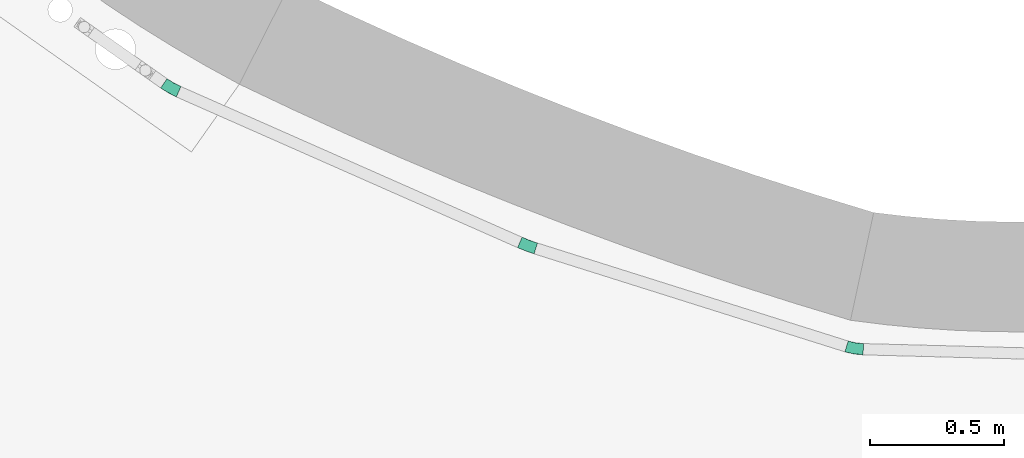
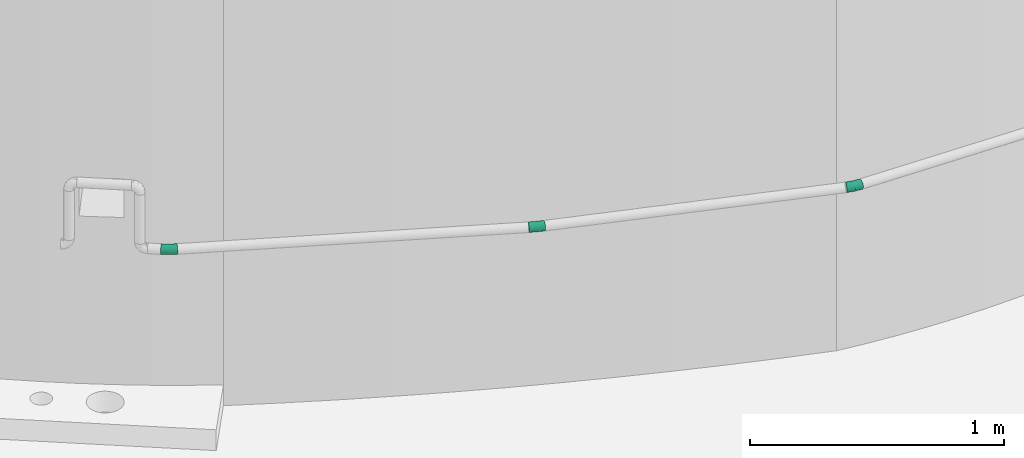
# One storey, part 32 of 34: 3 flow fittings.
"""IFC2X3 building model written with IfcOpenShell, lengths in metres."""

from ifc_helpers import new_model, entity, si_unit, converted_unit, derived_unit, direction, frame, origin, place, context, subcontext, project, spatial, faceted_brep, source, transform, mapped, type_object, type_shapes, element, save


model = new_model("IFC2X3")

# Units and contexts
model_context = context("Model", 3, precision=1e-05, world=origin(), true_north=direction((0.894925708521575, 0.446215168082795)))
context_of_model = context(None, 3, precision=1e-05, world=origin(), true_north=direction((0.894925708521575, 0.446215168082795)))
body_context = subcontext(model_context, "Body", "Model", "MODEL_VIEW")
ifc_project = project(units=[si_unit("LENGTHUNIT", "METRE"), si_unit("AREAUNIT", "SQUARE_METRE"), si_unit("VOLUMEUNIT", "CUBIC_METRE"), converted_unit("PLANEANGLEUNIT", "DEGREE", entity("IfcRatioMeasure", 0.0174532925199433), si_unit("PLANEANGLEUNIT", "RADIAN"), dimensions=[0, 0, 0, 0, 0, 0, 0]), si_unit("MASSUNIT", "GRAM", prefix="KILO"), si_unit("TIMEUNIT", "SECOND"), si_unit("FREQUENCYUNIT", "HERTZ"), si_unit("THERMODYNAMICTEMPERATUREUNIT", "DEGREE_CELSIUS"), derived_unit("THERMALTRANSMITTANCEUNIT", [(si_unit("MASSUNIT", "GRAM", prefix="KILO"), 1), (si_unit("THERMODYNAMICTEMPERATUREUNIT", "KELVIN"), -1), (si_unit("TIMEUNIT", "SECOND"), -3)]), derived_unit("VOLUMETRICFLOWRATEUNIT", [(si_unit("LENGTHUNIT", "METRE"), 3), (si_unit("TIMEUNIT", "SECOND"), -1)]), si_unit("ELECTRICCURRENTUNIT", "AMPERE"), si_unit("ELECTRICVOLTAGEUNIT", "VOLT"), si_unit("POWERUNIT", "WATT"), si_unit("FORCEUNIT", "NEWTON", prefix="KILO"), si_unit("ILLUMINANCEUNIT", "LUX"), si_unit("LUMINOUSFLUXUNIT", "LUMEN"), si_unit("LUMINOUSINTENSITYUNIT", "CANDELA"), si_unit("PRESSUREUNIT", "PASCAL")], contexts=[model_context, context_of_model])

# Site, building, storey
site_placement = place(None, frame((218.228324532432, 584.720189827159, 0.0), z_axis=(0.0, 0.0, 1.0), x_axis=(0.446215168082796, 0.894925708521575, 0.0)))
site = spatial("IfcSite", under=ifc_project, at=site_placement, Name="Default", CompositionType="ELEMENT")
building_placement = place(site_placement, origin())
building = spatial("IfcBuilding", under=site, at=building_placement, CompositionType="ELEMENT")
storey_placement = place(building_placement, frame((0.0, 0.0, 8.61)))
storey = spatial("IfcBuildingStorey", under=building, at=storey_placement, Name="2 - Piano Secondo", CompositionType="ELEMENT", Elevation=8.61)

# Flow fittings
pipe_fitting_type_1 = type_object("IfcPipeFittingType", Name="Standard", PredefinedType="NOTDEFINED")
shared_shape_1 = source(origin(), body_context, "Body", "Brep", [
    faceted_brep([(-0.0319999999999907, 0.0105499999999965, -0.0182731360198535), (-0.0319999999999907, 0.00546108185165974, -0.0203810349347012), (-0.0319999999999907, 0.0, -0.0211000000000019), (-0.0319999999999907, -0.00546108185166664, -0.0203810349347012), (-0.0319999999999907, -0.0105500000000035, -0.0182731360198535), (-0.0319999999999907, -0.0149199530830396, -0.0149199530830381), (-0.0319999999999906, -0.0182731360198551, -0.0105500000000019), (-0.0319999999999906, -0.0203810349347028, -0.00546108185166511), (-0.0319999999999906, -0.0211000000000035, 0.0), (-0.0319999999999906, -0.0203810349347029, 0.00546108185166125), (-0.0319999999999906, -0.0182731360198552, 0.0105499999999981), (-0.0319999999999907, -0.0149199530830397, 0.0149199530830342), (-0.0319999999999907, -0.0105500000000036, 0.0182731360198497), (-0.0319999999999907, -0.00546108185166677, 0.0203810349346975), (-0.0319999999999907, 0.0, 0.0210999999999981), (-0.0319999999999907, 0.0054610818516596, 0.0203810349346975), (-0.0319999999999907, 0.0105499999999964, 0.0182731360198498), (-0.0319999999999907, 0.0149199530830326, 0.0149199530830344), (-0.0319999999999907, 0.0182731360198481, 0.0105499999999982), (-0.0319999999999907, 0.0203810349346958, 0.00546108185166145), (-0.0319999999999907, 0.0210999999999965, 0.0), (-0.0319999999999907, 0.0203810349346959, -0.00546108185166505), (-0.0319999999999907, 0.0182731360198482, -0.0105500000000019), (-0.0319999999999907, 0.0149199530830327, -0.014919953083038), (0.0307603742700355, 0.00882039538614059, -0.0211000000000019), (0.0292550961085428, 0.0140699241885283, -0.0203810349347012), (0.0278524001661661, 0.0189617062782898, -0.0182731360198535), (0.0266478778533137, 0.02316237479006, -0.014919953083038), (0.0257236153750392, 0.0263856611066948, -0.0105500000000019), (0.0251425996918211, 0.0284119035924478, -0.00546108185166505), (0.0249444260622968, 0.0291030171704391, 0.0), (0.0251425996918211, 0.0284119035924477, 0.00546108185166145), (0.0257236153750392, 0.0263856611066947, 0.0105499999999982), (0.0266478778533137, 0.02316237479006, 0.0149199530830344), (0.0278524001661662, 0.0189617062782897, 0.0182731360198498), (0.0292550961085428, 0.0140699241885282, 0.0203810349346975), (0.0307603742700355, 0.00882039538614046, 0.0210999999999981), (0.0322656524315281, 0.00357086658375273, 0.0203810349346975), (0.0336683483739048, -0.00132091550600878, 0.0182731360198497), (0.0348728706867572, -0.00552158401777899, 0.0149199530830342), (0.0357971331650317, -0.0087448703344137, 0.0105499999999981), (0.0363781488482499, -0.0107711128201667, 0.00546108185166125), (0.0365763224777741, -0.011462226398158, 0.0), (0.0363781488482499, -0.0107711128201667, -0.00546108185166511), (0.0357971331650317, -0.00874487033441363, -0.0105500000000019), (0.0348728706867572, -0.00552158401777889, -0.0149199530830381), (0.0336683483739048, -0.00132091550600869, -0.0182731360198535), (0.0322656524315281, 0.00357086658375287, -0.0203810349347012), (0.00202247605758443, -0.0143906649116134, 0.0128056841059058), (0.00148160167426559, -0.0105421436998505, 0.0167101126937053), (0.00240425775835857, -0.0171071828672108, 0.00802834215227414), (0.00081850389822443, -0.00582395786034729, 0.0194754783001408), (7.83835096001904e-05, -0.000557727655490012, 0.0209132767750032), (-0.000688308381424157, 0.00489756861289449, 0.0209254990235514), (-0.00263738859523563, 0.0187659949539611, 0.0128799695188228), (-0.00209410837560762, 0.0149003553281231, 0.0167671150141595), (-0.00302211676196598, 0.0215034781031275, 0.00811484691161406), (-0.00318476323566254, 0.0226607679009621, 0.00435436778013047), (-0.00135217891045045, -0.0188014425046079, 0.00409185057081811), (-0.00142930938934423, 0.0101700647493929, 0.0195113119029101), (0.00262513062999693, -0.0186787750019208, 0.0), (-0.00324797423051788, 0.0231105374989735, 0.0), (7.83835071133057e-05, -0.00055772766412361, -0.0209132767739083), (-0.00318476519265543, 0.0226607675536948, -0.00435436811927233), (-0.000688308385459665, 0.00489756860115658, -0.0209254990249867), (-0.0030221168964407, 0.0215034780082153, -0.00811484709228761), (0.00648217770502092, -0.0177003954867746, -0.00409185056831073), (0.00240425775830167, -0.0171071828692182, -0.00802834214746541), (-0.0020941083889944, 0.0149003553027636, -0.0167671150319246), (0.00202247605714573, -0.0143906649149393, -0.0128056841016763), (0.00148160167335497, -0.0105421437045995, -0.0167101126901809), (-0.00142930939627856, 0.0101700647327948, -0.0195113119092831), (-0.00263738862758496, 0.0187659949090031, -0.0128799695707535), (0.000818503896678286, -0.00582395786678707, -0.0194754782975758)], [[[0, 1, 2, 3, 4, 5, 6, 7, 8, 9, 10, 11, 12, 13, 14, 15, 16, 17, 18, 19, 20, 21, 22, 23]], [[24, 25, 26, 27, 28, 29, 30, 31, 32, 33, 34, 35, 36, 37, 38, 39, 40, 41, 42, 43, 44, 45, 46, 47]], [[10, 48, 11]], [[12, 11, 49]], [[50, 48, 10]], [[41, 40, 50]], [[48, 49, 11]], [[13, 12, 51]], [[49, 51, 12]], [[14, 13, 52]], [[14, 53, 15]], [[39, 38, 49]], [[50, 10, 9]], [[40, 39, 48]], [[17, 54, 18]], [[55, 17, 16]], [[37, 36, 52]], [[51, 52, 13]], [[36, 35, 53]], [[19, 56, 57]], [[58, 50, 9]], [[20, 19, 57]], [[19, 18, 56]], [[53, 59, 15]], [[16, 15, 59]], [[52, 53, 14]], [[8, 60, 58]], [[38, 37, 51]], [[52, 51, 37]], [[38, 51, 49]], [[20, 57, 61]], [[53, 52, 36]], [[50, 40, 48]], [[58, 60, 42]], [[39, 49, 48]], [[42, 41, 58]], [[8, 58, 9]], [[57, 56, 31]], [[61, 57, 30]], [[34, 33, 55]], [[59, 55, 16]], [[32, 31, 56]], [[59, 34, 55]], [[33, 32, 54]], [[33, 54, 55]], [[54, 56, 18]], [[54, 32, 56]], [[53, 35, 59]], [[55, 54, 17]], [[30, 57, 31]], [[41, 50, 58]], [[35, 34, 59]], [[3, 2, 62]], [[30, 63, 61]], [[20, 63, 21]], [[2, 1, 64]], [[65, 22, 21]], [[66, 67, 43]], [[23, 68, 0]], [[69, 70, 45]], [[1, 0, 71]], [[65, 21, 63]], [[72, 65, 28]], [[22, 72, 23]], [[8, 7, 66]], [[7, 67, 66]], [[70, 5, 4]], [[66, 60, 8]], [[7, 6, 67]], [[5, 69, 6]], [[73, 4, 3]], [[69, 5, 70]], [[20, 61, 63]], [[42, 66, 43]], [[30, 29, 63]], [[70, 4, 73]], [[67, 6, 69]], [[28, 65, 29]], [[68, 27, 26]], [[67, 69, 44]], [[26, 25, 71]], [[68, 23, 72]], [[71, 68, 26]], [[27, 72, 28]], [[72, 22, 65]], [[24, 64, 25]], [[73, 47, 46]], [[71, 0, 68]], [[62, 64, 24]], [[70, 46, 45]], [[44, 43, 67]], [[73, 62, 47]], [[42, 60, 66]], [[70, 73, 46]], [[62, 2, 64]], [[69, 45, 44]], [[64, 1, 71]], [[47, 62, 24]], [[64, 71, 25]], [[63, 29, 65]], [[68, 72, 27]], [[73, 3, 62]]]),
])
type_shapes(pipe_fitting_type_1, [shared_shape_1])
flow_fitting_1_placement = place(storey_placement, frame((67.0849547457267, -5.49216665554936, 0.850000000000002), z_axis=(0.0, 0.0, 1.0), x_axis=(0.156434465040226, -0.987688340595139, 0.0)))
element("IfcFlowFitting", 1, at=flow_fitting_1_placement, inside=storey, type_object=pipe_fitting_type_1, Name="M_Gomito - Saldato - Generico:Standard", ObjectType="Standard", context=body_context, shape_type="MappedRepresentation", body=[
    mapped(shared_shape_1, transform((0.0, 0.0, 0.0), scale=1.0)),
])
pipe_fitting_type_2 = type_object("IfcPipeFittingType", Name="Standard", PredefinedType="NOTDEFINED")
shared_shape_2 = source(origin(), body_context, "Body", "Brep", [
    faceted_brep([(-0.0319999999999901, 0.0054610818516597, -0.0203810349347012), (-0.0319999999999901, 0.0, -0.0211000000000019), (-0.0319999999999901, -0.00546108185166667, -0.0203810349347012), (-0.0319999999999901, -0.0105500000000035, -0.0182731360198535), (-0.0319999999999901, -0.0149199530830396, -0.0149199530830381), (-0.03199999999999, -0.0182731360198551, -0.0105500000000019), (-0.03199999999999, -0.0203810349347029, -0.00546108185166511), (-0.03199999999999, -0.0211000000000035, 0.0), (-0.03199999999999, -0.0203810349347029, 0.00546108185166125), (-0.03199999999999, -0.0182731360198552, 0.0105499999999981), (-0.0319999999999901, -0.0149199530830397, 0.0149199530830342), (-0.0319999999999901, -0.0105500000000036, 0.0182731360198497), (-0.0319999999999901, -0.00546108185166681, 0.0203810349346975), (-0.0319999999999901, 0.0, 0.0210999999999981), (-0.0319999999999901, 0.00546108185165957, 0.0203810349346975), (-0.0319999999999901, 0.0105499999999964, 0.0182731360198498), (-0.0319999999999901, 0.0149199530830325, 0.0149199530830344), (-0.0319999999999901, 0.0182731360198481, 0.0105499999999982), (-0.0319999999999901, 0.0203810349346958, 0.00546108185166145), (-0.0319999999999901, 0.0210999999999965, 0.0), (-0.0319999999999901, 0.0203810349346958, -0.00546108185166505), (-0.0319999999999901, 0.0182731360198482, -0.0105500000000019), (-0.0319999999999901, 0.0149199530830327, -0.014919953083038), (-0.0319999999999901, 0.0105499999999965, -0.0182731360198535), (0.0318049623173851, 0.0035276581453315, -0.0211000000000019), (0.0312029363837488, 0.00895545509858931, -0.0203810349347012), (0.030641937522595, 0.0140133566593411, -0.0182731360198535), (0.0301601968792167, 0.0183566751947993, -0.014919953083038), (0.0297905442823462, 0.0216894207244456, -0.0105500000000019), (0.0295581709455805, 0.0237844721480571, -0.00546108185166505), (0.0294789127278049, 0.0244990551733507, 0.0), (0.0295581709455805, 0.0237844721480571, 0.00546108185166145), (0.0297905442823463, 0.0216894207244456, 0.0105499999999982), (0.0301601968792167, 0.0183566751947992, 0.0149199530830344), (0.030641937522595, 0.014013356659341, 0.0182731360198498), (0.0312029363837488, 0.00895545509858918, 0.0203810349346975), (0.0318049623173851, 0.00352765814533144, 0.0210999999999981), (0.0324069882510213, -0.00190013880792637, 0.0203810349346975), (0.0329679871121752, -0.00695804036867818, 0.0182731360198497), (0.0334497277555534, -0.0113013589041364, 0.0149199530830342), (0.0338193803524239, -0.0146341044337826, 0.0105499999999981), (0.0340517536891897, -0.0167291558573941, 0.00546108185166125), (0.0341310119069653, -0.0174437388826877, 0.0), (0.0340517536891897, -0.0167291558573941, -0.00546108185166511), (0.0338193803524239, -0.0146341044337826, -0.0105500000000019), (0.0334497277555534, -0.0113013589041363, -0.0149199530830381), (0.0329679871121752, -0.00695804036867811, -0.0182731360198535), (0.0324069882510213, -0.00190013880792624, -0.0203810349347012), (0.000875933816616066, -0.015843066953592, 0.0128299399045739), (0.000661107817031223, -0.0119574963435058, 0.0167283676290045), (0.00100661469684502, -0.0182066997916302, 0.00892721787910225), (0.00039790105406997, -0.00719685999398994, 0.019486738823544), (0.000104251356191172, -0.00188560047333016, 0.0209170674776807), (-0.000199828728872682, 0.00361431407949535, 0.0209218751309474), (0.00109110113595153, -0.0197348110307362, 0.00433975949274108), (-0.000972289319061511, 0.0175858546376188, 0.0128591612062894), (-0.000808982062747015, 0.0146321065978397, 0.0159869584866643), (-0.00112455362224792, 0.0203398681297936, 0.00809116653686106), (-0.000814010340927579, 0.0215648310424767, 0.00412518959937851), (-0.000493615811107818, 0.00892805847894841, 0.0195008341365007), (0.00111600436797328, -0.0201852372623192, 0.0), (-0.00121359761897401, 0.0219504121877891, 0.0), (0.00010425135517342, -0.00188560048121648, -0.0209170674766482), (-0.00156824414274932, 0.0215231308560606, -0.00412518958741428), (-0.000199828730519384, 0.00361431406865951, -0.0209218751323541), (-0.00112455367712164, 0.0203398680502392, -0.00809116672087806), (0.00352919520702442, -0.0196426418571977, -0.00410712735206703), (0.0010277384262, -0.0185887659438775, -0.00805713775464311), (-0.000757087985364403, 0.0136934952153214, -0.0167507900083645), (0.000397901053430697, -0.0071968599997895, -0.0194867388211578), (-0.000493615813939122, 0.00892805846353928, -0.0195008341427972), (-0.000972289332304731, 0.01758585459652, -0.012859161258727), (0.000661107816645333, -0.0119574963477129, -0.0167283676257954), (0.000875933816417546, -0.0158430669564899, -0.0128299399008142)], [[[0, 1, 2, 3, 4, 5, 6, 7, 8, 9, 10, 11, 12, 13, 14, 15, 16, 17, 18, 19, 20, 21, 22, 23]], [[24, 25, 26, 27, 28, 29, 30, 31, 32, 33, 34, 35, 36, 37, 38, 39, 40, 41, 42, 43, 44, 45, 46, 47]], [[9, 48, 10]], [[11, 10, 49]], [[9, 8, 50]], [[40, 39, 48]], [[48, 49, 10]], [[12, 11, 51]], [[49, 51, 11]], [[13, 12, 52]], [[13, 53, 14]], [[39, 38, 49]], [[40, 48, 50]], [[50, 8, 54]], [[16, 55, 17]], [[33, 55, 56]], [[37, 36, 52]], [[51, 52, 12]], [[36, 35, 53]], [[57, 58, 18]], [[50, 48, 9]], [[19, 18, 58]], [[18, 17, 57]], [[53, 59, 14]], [[15, 14, 59]], [[52, 53, 13]], [[7, 60, 54]], [[38, 37, 51]], [[52, 51, 37]], [[38, 51, 49]], [[58, 61, 19]], [[53, 52, 36]], [[50, 41, 40]], [[7, 54, 8]], [[39, 49, 48]], [[42, 41, 54]], [[50, 54, 41]], [[58, 57, 31]], [[61, 58, 30]], [[33, 32, 55]], [[56, 55, 16]], [[32, 31, 57]], [[59, 34, 56]], [[56, 15, 59]], [[34, 33, 56]], [[55, 57, 17]], [[55, 32, 57]], [[53, 35, 59]], [[16, 15, 56]], [[30, 58, 31]], [[60, 42, 54]], [[35, 34, 59]], [[2, 1, 62]], [[63, 61, 30]], [[19, 63, 20]], [[1, 0, 64]], [[65, 21, 20]], [[66, 67, 43]], [[22, 68, 23]], [[69, 62, 47]], [[0, 23, 70]], [[65, 20, 63]], [[71, 65, 28]], [[21, 71, 22]], [[7, 6, 66]], [[6, 67, 66]], [[72, 4, 3]], [[66, 60, 7]], [[6, 5, 67]], [[4, 73, 5]], [[69, 3, 2]], [[73, 4, 72]], [[19, 61, 63]], [[42, 66, 43]], [[30, 29, 63]], [[62, 1, 64]], [[67, 5, 73]], [[28, 65, 29]], [[68, 27, 26]], [[67, 73, 44]], [[26, 25, 70]], [[68, 22, 71]], [[70, 68, 26]], [[27, 71, 28]], [[71, 21, 65]], [[24, 64, 25]], [[69, 47, 46]], [[70, 23, 68]], [[62, 64, 24]], [[72, 46, 45]], [[44, 43, 67]], [[72, 69, 46]], [[42, 60, 66]], [[73, 72, 45]], [[69, 2, 62]], [[73, 45, 44]], [[64, 0, 70]], [[47, 62, 24]], [[64, 70, 25]], [[29, 65, 63]], [[68, 71, 27]], [[72, 3, 69]]]),
])
type_shapes(pipe_fitting_type_2, [shared_shape_2])
flow_fitting_2_placement = place(storey_placement, frame((66.8847186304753, -4.22792557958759, 0.850000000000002), z_axis=(0.0, 0.0, 1.0), x_axis=(0.0465989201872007, -0.998913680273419, 0.0)))
element("IfcFlowFitting", 2, at=flow_fitting_2_placement, inside=storey, type_object=pipe_fitting_type_2, Name="M_Gomito - Saldato - Generico:Standard", ObjectType="Standard", context=body_context, shape_type="MappedRepresentation", body=[
    mapped(shared_shape_2, transform((0.0, 0.0, 0.0), scale=1.0)),
])
pipe_fitting_type_3 = type_object("IfcPipeFittingType", Name="Standard", PredefinedType="NOTDEFINED")
shared_shape_3 = source(origin(), body_context, "Body", "Brep", [
    faceted_brep([(-0.0319999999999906, 0.0054610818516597, -0.0203810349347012), (-0.0319999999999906, 0.0, -0.0211000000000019), (-0.0319999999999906, -0.00546108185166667, -0.0203810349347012), (-0.0319999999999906, -0.0105500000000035, -0.0182731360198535), (-0.0319999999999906, -0.0149199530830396, -0.0149199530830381), (-0.0319999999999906, -0.0182731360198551, -0.0105500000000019), (-0.0319999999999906, -0.0203810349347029, -0.00546108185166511), (-0.0319999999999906, -0.0211000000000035, 0.0), (-0.0319999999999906, -0.0203810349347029, 0.00546108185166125), (-0.0319999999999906, -0.0182731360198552, 0.0105499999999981), (-0.0319999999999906, -0.0149199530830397, 0.0149199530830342), (-0.0319999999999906, -0.0105500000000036, 0.0182731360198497), (-0.0319999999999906, -0.00546108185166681, 0.0203810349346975), (-0.0319999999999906, 0.0, 0.0210999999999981), (-0.0319999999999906, 0.00546108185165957, 0.0203810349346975), (-0.0319999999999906, 0.0105499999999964, 0.0182731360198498), (-0.0319999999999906, 0.0149199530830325, 0.0149199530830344), (-0.0319999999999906, 0.0182731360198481, 0.0105499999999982), (-0.0319999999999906, 0.0203810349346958, 0.00546108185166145), (-0.0319999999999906, 0.0210999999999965, 0.0), (-0.0319999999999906, 0.0203810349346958, -0.00546108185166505), (-0.0319999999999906, 0.0182731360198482, -0.0105500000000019), (-0.0319999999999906, 0.0149199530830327, -0.014919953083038), (-0.0319999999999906, 0.0105499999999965, -0.0182731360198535), (0.03028910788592, 0.0116787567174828, -0.0203810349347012), (0.029283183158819, 0.0166672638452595, -0.0182731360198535), (0.0284193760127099, 0.0209509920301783, -0.014919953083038), (0.0277565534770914, 0.0242380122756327, -0.0105500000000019), (0.0273398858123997, 0.0263043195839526, -0.00546108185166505), (0.0271977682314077, 0.0270090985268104, 0.0), (0.0273398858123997, 0.0263043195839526, 0.00546108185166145), (0.0277565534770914, 0.0242380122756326, 0.0105499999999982), (0.02841937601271, 0.0209509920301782, 0.0149199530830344), (0.029283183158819, 0.0166672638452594, 0.0182731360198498), (0.03028910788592, 0.0116787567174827, 0.0203810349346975), (0.0313685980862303, 0.00632542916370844, 0.0210999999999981), (0.0324480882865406, 0.000972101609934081, 0.0203810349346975), (0.0334540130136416, -0.00401640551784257, 0.0182731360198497), (0.0343178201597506, -0.0083001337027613, 0.0149199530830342), (0.0349806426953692, -0.0115871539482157, 0.0105499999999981), (0.0353973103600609, -0.0136534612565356, 0.00546108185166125), (0.0355394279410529, -0.0143582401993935, 0.0), (0.0353973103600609, -0.0136534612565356, -0.00546108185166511), (0.0349806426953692, -0.0115871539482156, -0.0105500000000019), (0.0343178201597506, -0.00830013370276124, -0.0149199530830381), (0.0334540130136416, -0.00401640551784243, -0.0182731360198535), (0.0324480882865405, 0.000972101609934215, -0.0203810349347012), (0.0313685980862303, 0.00632542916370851, -0.0211000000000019), (0.00150653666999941, -0.0150925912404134, 0.0128174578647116), (0.0011202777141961, -0.0112230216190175, 0.0167189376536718), (0.00177932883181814, -0.0178254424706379, 0.00804237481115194), (0.000646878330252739, -0.00648047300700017, 0.0194808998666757), (0.00011860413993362, -0.00118818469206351, 0.020915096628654), (-0.000428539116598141, 0.00429313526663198, 0.0209237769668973), (-0.00181899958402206, 0.0182228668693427, 0.0128702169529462), (-0.00153095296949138, 0.0153371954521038, 0.015943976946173), (-0.00209328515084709, 0.0209706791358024, 0.00810381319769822), (-0.00221177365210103, 0.0221577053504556, 0.00421523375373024), (-0.0013286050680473, -0.0193169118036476, 0.00409929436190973), (-0.000957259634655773, 0.00958989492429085, 0.0195063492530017), (0.00193753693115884, -0.01941038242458, 0.0), (-0.00225402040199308, 0.0225809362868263, 0.0), (0.000118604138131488, -0.00118818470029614, -0.0209150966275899), (-0.00221177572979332, 0.0221577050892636, -0.00421523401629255), (-0.000428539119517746, 0.00429313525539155, -0.020923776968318), (-0.00209328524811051, 0.0209706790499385, -0.00810381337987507), (0.00512075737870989, -0.0186731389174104, -0.00409929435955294), (0.00177932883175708, -0.0178254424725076, -0.0080423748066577), (-0.00143152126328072, 0.014341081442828, -0.0167594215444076), (0.00150653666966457, -0.015092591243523, -0.0128174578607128), (0.00112027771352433, -0.0112230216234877, -0.0167189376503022), (-0.00095725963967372, 0.0095898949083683, -0.0195063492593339), (-0.00181899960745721, 0.0182228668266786, -0.0128702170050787), (0.000646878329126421, -0.00648047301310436, -0.0194808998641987)], [[[0, 1, 2, 3, 4, 5, 6, 7, 8, 9, 10, 11, 12, 13, 14, 15, 16, 17, 18, 19, 20, 21, 22, 23]], [[24, 25, 26, 27, 28, 29, 30, 31, 32, 33, 34, 35, 36, 37, 38, 39, 40, 41, 42, 43, 44, 45, 46, 47]], [[9, 48, 10]], [[11, 10, 49]], [[50, 48, 9]], [[40, 39, 50]], [[48, 49, 10]], [[12, 11, 51]], [[49, 51, 11]], [[13, 12, 52]], [[13, 53, 14]], [[38, 37, 49]], [[50, 9, 8]], [[39, 38, 48]], [[16, 54, 17]], [[32, 54, 55]], [[36, 35, 52]], [[51, 52, 12]], [[35, 34, 53]], [[18, 56, 57]], [[58, 50, 8]], [[19, 18, 57]], [[18, 17, 56]], [[53, 59, 14]], [[15, 14, 59]], [[52, 53, 13]], [[7, 60, 58]], [[37, 36, 51]], [[52, 51, 36]], [[37, 51, 49]], [[19, 57, 61]], [[53, 52, 35]], [[50, 39, 48]], [[58, 60, 41]], [[38, 49, 48]], [[41, 40, 58]], [[7, 58, 8]], [[57, 56, 30]], [[61, 57, 29]], [[32, 31, 54]], [[55, 54, 16]], [[31, 30, 56]], [[59, 33, 55]], [[55, 15, 59]], [[33, 32, 55]], [[54, 56, 17]], [[54, 31, 56]], [[53, 34, 59]], [[16, 15, 55]], [[29, 57, 30]], [[40, 50, 58]], [[34, 33, 59]], [[2, 1, 62]], [[29, 63, 61]], [[19, 63, 20]], [[1, 0, 64]], [[65, 21, 20]], [[66, 67, 42]], [[22, 68, 23]], [[69, 70, 44]], [[0, 23, 71]], [[65, 20, 63]], [[72, 65, 27]], [[21, 72, 22]], [[7, 6, 66]], [[6, 67, 66]], [[70, 4, 3]], [[66, 60, 7]], [[6, 5, 67]], [[4, 69, 5]], [[73, 3, 2]], [[69, 4, 70]], [[19, 61, 63]], [[41, 66, 42]], [[29, 28, 63]], [[70, 3, 73]], [[67, 5, 69]], [[27, 65, 28]], [[68, 26, 25]], [[67, 69, 43]], [[25, 24, 71]], [[68, 22, 72]], [[71, 68, 25]], [[26, 72, 27]], [[72, 21, 65]], [[47, 64, 24]], [[73, 46, 45]], [[71, 23, 68]], [[62, 64, 47]], [[70, 45, 44]], [[43, 42, 67]], [[73, 62, 46]], [[41, 60, 66]], [[70, 73, 45]], [[62, 1, 64]], [[69, 44, 43]], [[64, 0, 71]], [[46, 62, 47]], [[64, 71, 24]], [[63, 28, 65]], [[68, 72, 26]], [[73, 2, 62]]]),
])
type_shapes(pipe_fitting_type_3, [shared_shape_3])
flow_fitting_3_placement = place(storey_placement, frame((66.8168779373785, -2.77366449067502, 0.850000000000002), z_axis=(0.0, 0.0, 1.0), x_axis=(-0.151775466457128, -0.988414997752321, 0.0)))
element("IfcFlowFitting", 3, at=flow_fitting_3_placement, inside=storey, type_object=pipe_fitting_type_3, Name="M_Gomito - Saldato - Generico:Standard", ObjectType="Standard", context=body_context, shape_type="MappedRepresentation", body=[
    mapped(shared_shape_3, transform((0.0, 0.0, 0.0), scale=1.0)),
])

save(model, "model.ifc")
